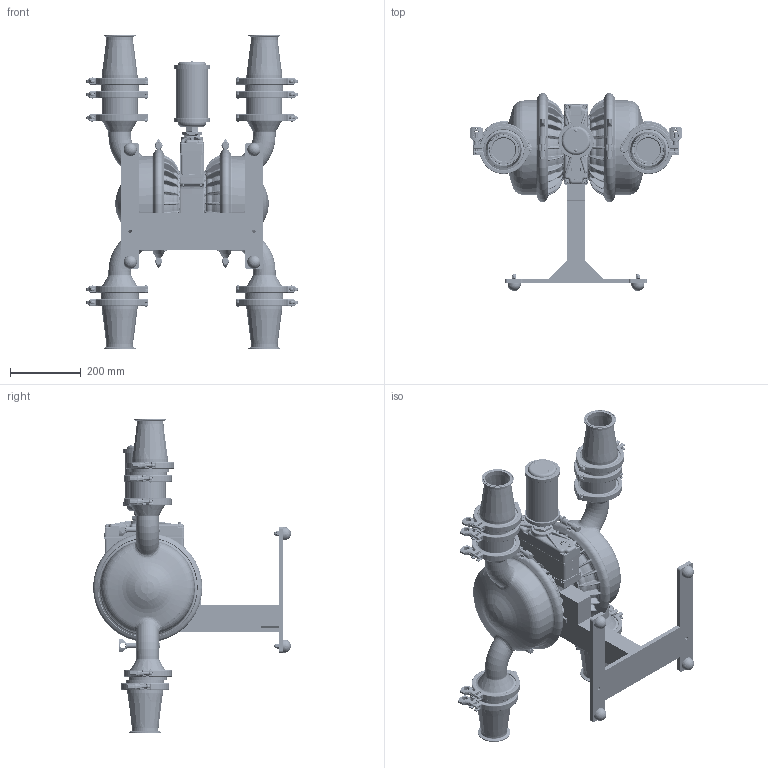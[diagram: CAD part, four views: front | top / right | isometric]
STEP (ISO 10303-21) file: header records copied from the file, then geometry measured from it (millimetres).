
FILE_DESCRIPTION((''),'2;1');
FILE_NAME('PS15_SS_SANIFLO_HS_FL_SW0001','2015-05-01T',('nathan.hale'),(''),'PRO/ENGINEER BY PARAMETRIC TECHNOLOGY CORPORATION, 2013320','PRO/ENGINEER BY PARAMETRIC TECHNOLOGY CORPORATION, 2013320','');
FILE_SCHEMA(('CONFIG_CONTROL_DESIGN'));
Products named in the file (1): PS15_SS_SANIFLO_HS_FL_SW0001
Bounding box: 597.97 x 558.36 x 886.21 mm (x, y, z)
Volume: 10596027.7 mm3; surface area: 3043932.2 mm2
Topology: 23 solids, 36 shells, 17187 faces, 43722 edges, 27041 vertices
Faces by surface type: plane 8180, bspline 2849, cylinder 2621, torus 1907, cone 994, sphere 553, extrusion 83
Entity records: 988297 total; most frequent: CARTESIAN_POINT 591965, ORIENTED_EDGE 87142, DIRECTION 76450, EDGE_CURVE 43571, VERTEX_POINT 27041, AXIS2_PLACEMENT_3D 25898, VECTOR 24654, LINE 24571
